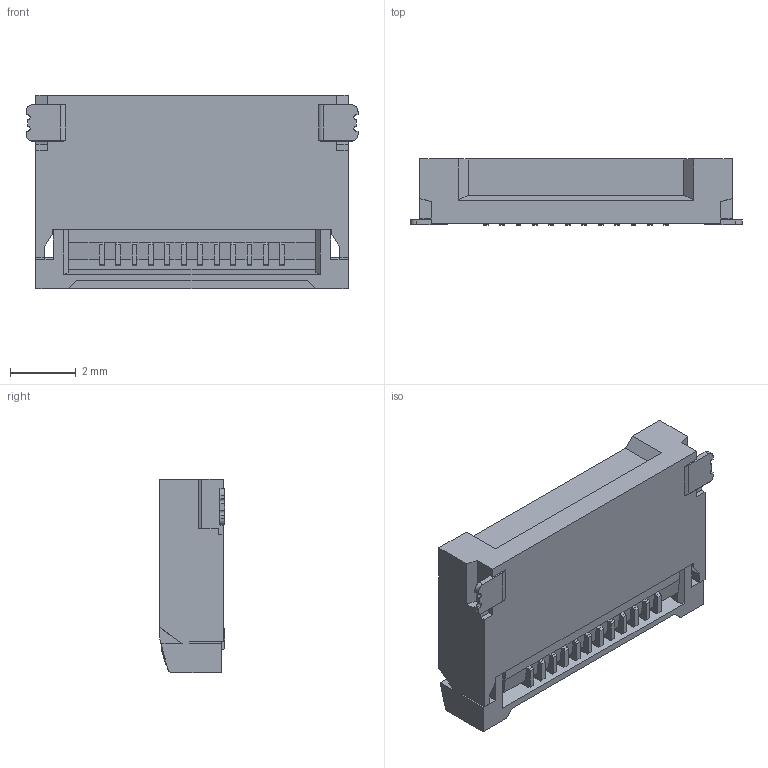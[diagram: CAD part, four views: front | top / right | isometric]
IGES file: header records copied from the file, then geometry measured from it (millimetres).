
Start section: SolidWorks IGES file using analytic representation for surfaces
Global section: file name: C:\Users\ieng2-005\Desktop\isimaru\3dƒ‚ƒfƒ‹\CLOSE\20593-012E-01C ASS'Y ACT CLOSE IGES R1 ALL.IGS; native system: SolidWorks 2014; preprocessor: SolidWorks 2014; author: ieng2-005; date: 170516.172637; units: millimetre
Bounding box: 10.1 x 2 x 5.9 mm (x, y, z)
Surface area: 198.6 mm2 (no closed solid volume)
Topology: 0 solids, 0 shells, 221 faces, 1384 edges, 1384 vertices
Faces by surface type: bspline 200, revolution 21
